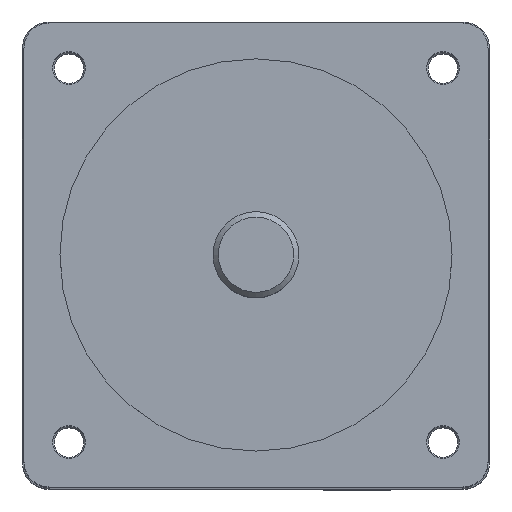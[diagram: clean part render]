
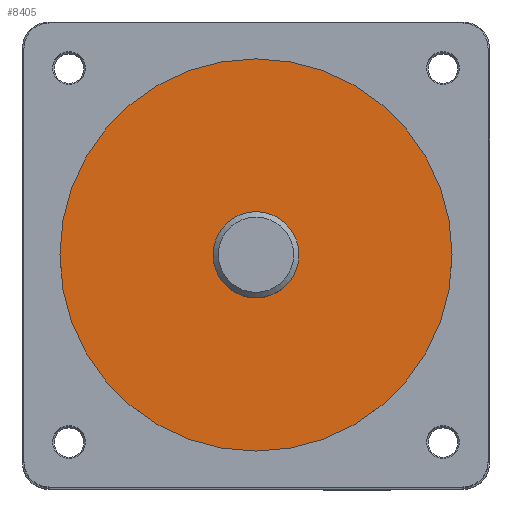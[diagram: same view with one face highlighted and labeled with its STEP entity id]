
A CAD part, top view. The second image highlights one B-rep face of the part: STEP entity #8405.
In plain terms, the highlighted planar face has unit normal (0, 0, 1).
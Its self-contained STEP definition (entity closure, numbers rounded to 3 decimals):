
#2525=FACE_BOUND('',#3068,.T.);
#2602=FACE_OUTER_BOUND('',#3067,.T.);
#3067=EDGE_LOOP('',(#5775));
#3068=EDGE_LOOP('',(#5776));
#3581=CIRCLE('',#8866,8.);
#3584=CIRCLE('',#8876,36.5);
#3763=VERTEX_POINT('',#11448);
#3772=VERTEX_POINT('',#11511);
#4554=EDGE_CURVE('',#3763,#3763,#3581,.T.);
#4567=EDGE_CURVE('',#3772,#3772,#3584,.T.);
#5775=ORIENTED_EDGE('',*,*,#4567,.T.);
#5776=ORIENTED_EDGE('',*,*,#4554,.T.);
#8118=PLANE('',#8878);
#8405=ADVANCED_FACE('',(#2602,#2525),#8118,.T.);
#8866=AXIS2_PLACEMENT_3D('',#11449,#9451,#9452);
#8876=AXIS2_PLACEMENT_3D('',#11512,#9479,#9480);
#8878=AXIS2_PLACEMENT_3D('',#11515,#9483,#9484);
#9451=DIRECTION('center_axis',(0.,0.,-1.));
#9452=DIRECTION('ref_axis',(-1.,0.,0.));
#9479=DIRECTION('center_axis',(0.,0.,1.));
#9480=DIRECTION('ref_axis',(-1.,0.,0.));
#9483=DIRECTION('center_axis',(0.,0.,1.));
#9484=DIRECTION('ref_axis',(1.,0.,0.));
#11448=CARTESIAN_POINT('',(51.5,43.5,83.3));
#11449=CARTESIAN_POINT('Origin',(43.5,43.5,83.3));
#11511=CARTESIAN_POINT('',(80.,43.5,83.3));
#11512=CARTESIAN_POINT('Origin',(43.5,43.5,83.3));
#11515=CARTESIAN_POINT('Origin',(43.5,43.5,83.3));
